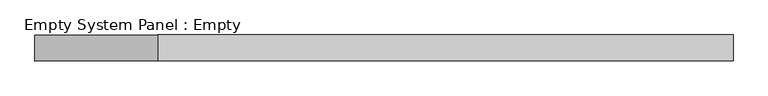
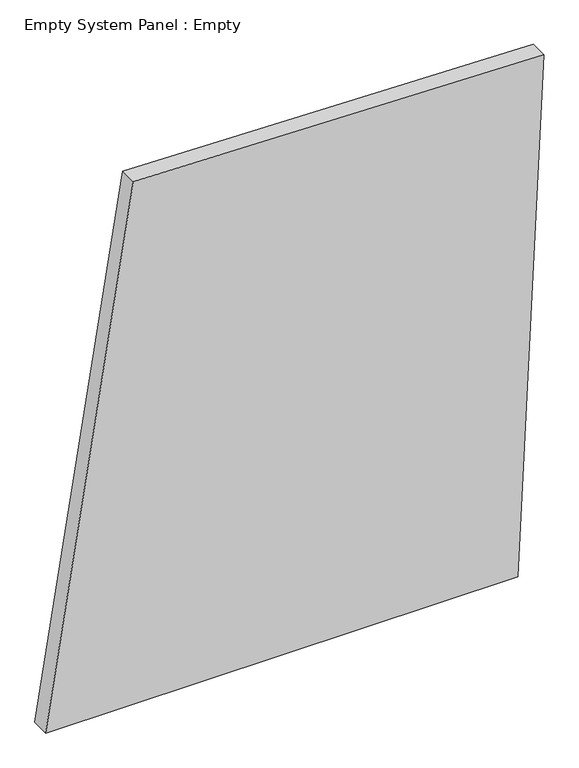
"""IFC4 building model written with IfcOpenShell, lengths in millimetres: plate geometry, Empty System Panel : Empty."""

from ifc_helpers import new_model, si_unit, frame, origin, place, context, project, spatial, polyline, outline, extrude, source, transform, mapped, element, save


def empty_system_panel_empty_c5fa8077(model_context):
    return source(origin(), model_context, "Body", "SweptSolid", [
        extrude(outline(polyline([(0.0, -1363.4720414), (0.0, 1221.123744), (2965.5269525, 1363.4720414), (3019.319777, -883.9849842), (0.0, -1363.4720414)])), frame((0.0, -50.8, 0.0), z_axis=(0.0, 1.0, 0.0), x_axis=(0.0, 0.0, 1.0)), (0.0, 0.0, 1.0), 101.6),
    ])


if __name__ == "__main__":
    model = new_model("IFC4")
    model_context = context("Model", 3, world=origin())
    ifc_project = project(units=[si_unit("LENGTHUNIT", "METRE", prefix="MILLI")], contexts=[model_context])
    site = spatial("IfcSite", under=ifc_project)
    building = spatial("IfcBuilding", under=site)
    placement = place(None, origin())
    empty_system_panel_empty_shape = empty_system_panel_empty_c5fa8077(model_context)
    element("IfcPlate", 1, ObjectType="Empty System Panel : Empty", at=placement, inside=building, context=model_context, shape_type="MappedRepresentation", body=[
        mapped(empty_system_panel_empty_shape, transform((0.0, 0.0, 0.0), x_axis=(1.0, 0.0, 0.0), y_axis=(0.0, 1.0, 0.0), z_axis=(0.0, 0.0, 1.0))),
    ])
    save(model, "model.ifc")
